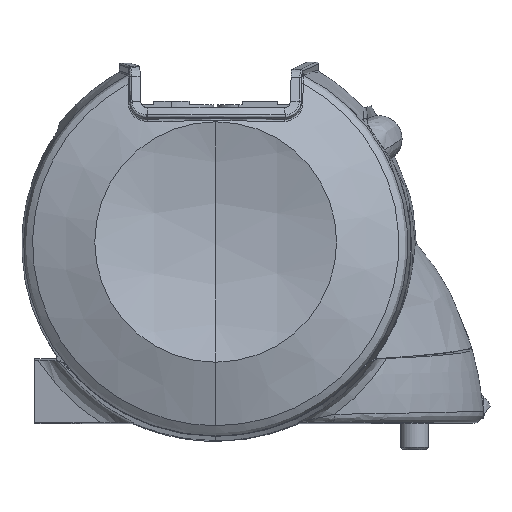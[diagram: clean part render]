
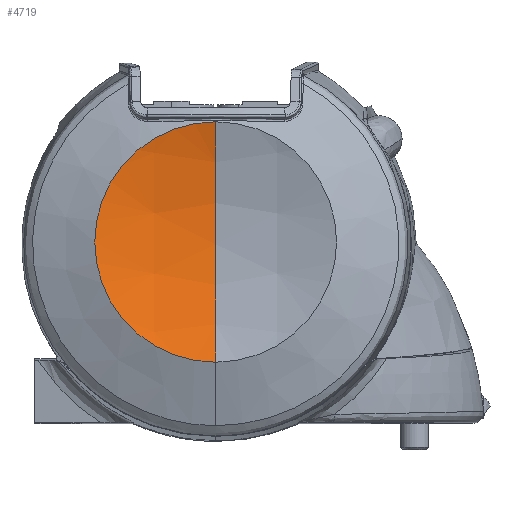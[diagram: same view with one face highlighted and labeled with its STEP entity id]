
A CAD part, top view. The second image highlights one B-rep face of the part: STEP entity #4719.
In plain terms, the highlighted spherical face has radius 49.821 mm.
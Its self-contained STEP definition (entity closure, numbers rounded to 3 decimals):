
#4719 = ADVANCED_FACE ( 'NONE', ( #23536 ), #24031, .F. ) ;
#5004 = EDGE_CURVE ( 'NONE', #29858, #14075, #23842, .T. ) ;
#5005 = EDGE_CURVE ( 'NONE', #29858, #14069, #23636, .T. ) ;
#5322 = CIRCLE ( 'NONE', #8032, 17.027 ) ;
#6786 = CARTESIAN_POINT ( 'NONE',  ( 0., 5.312, 97.543 ) ) ;
#6787 = DIRECTION ( 'NONE',  ( 1., 0., 0. ) ) ;
#6788 = DIRECTION ( 'NONE',  ( 0., 0., -1. ) ) ;
#6791 = CARTESIAN_POINT ( 'NONE',  ( 0., 5.312, 97.543 ) ) ;
#6792 = DIRECTION ( 'NONE',  ( -1., 0., 0. ) ) ;
#6793 = DIRECTION ( 'NONE',  ( 0., -1., 0. ) ) ;
#7865 = AXIS2_PLACEMENT_3D ( 'NONE', #6786, #6787, #6788 ) ;
#7866 = AXIS2_PLACEMENT_3D ( 'NONE', #6791, #6792, #6793 ) ;
#8032 = AXIS2_PLACEMENT_3D ( 'NONE', #10147, #10150, #10153 ) ;
#10147 = CARTESIAN_POINT ( 'NONE',  ( 0., 0.418, 50.978 ) ) ;
#10150 = DIRECTION ( 'NONE',  ( 0., 0.105, 0.995 ) ) ;
#10153 = DIRECTION ( 'NONE',  ( 0., -0.995, 0.105 ) ) ;
#14069 = VERTEX_POINT ( 'NONE', #22056 ) ;
#14075 = VERTEX_POINT ( 'NONE', #22062 ) ;
#16712 = ORIENTED_EDGE ( 'NONE', *, *, #5004, .T. ) ;
#17018 = ORIENTED_EDGE ( 'NONE', *, *, #5005, .F. ) ;
#17071 = ORIENTED_EDGE ( 'NONE', *, *, #21203, .T. ) ;
#20861 = DIRECTION ( 'NONE',  ( -1., 0., 0. ) ) ;
#20865 = CARTESIAN_POINT ( 'NONE',  ( 0., 5.312, 97.543 ) ) ;
#20898 = DIRECTION ( 'NONE',  ( 0., 0.995, -0.105 ) ) ;
#21203 = EDGE_CURVE ( 'NONE', #14075, #14069, #5322, .T. ) ;
#22056 = CARTESIAN_POINT ( 'NONE',  ( 0., -16.516, 52.758 ) ) ;
#22062 = CARTESIAN_POINT ( 'NONE',  ( 0., 17.352, 49.198 ) ) ;
#23192 = AXIS2_PLACEMENT_3D ( 'NONE', #20865, #20861, #20898 ) ;
#23536 = FACE_OUTER_BOUND ( 'NONE', #29576, .T. ) ;
#23636 = CIRCLE ( 'NONE', #7866, 49.821 ) ;
#23842 = CIRCLE ( 'NONE', #7865, 49.821 ) ;
#24031 = SPHERICAL_SURFACE ( 'NONE', #23192, 49.821 ) ;
#27603 = CARTESIAN_POINT ( 'NONE',  ( 0., 0.105, 47.995 ) ) ;
#29576 = EDGE_LOOP ( 'NONE', ( #17018, #16712, #17071 ) ) ;
#29858 = VERTEX_POINT ( 'NONE', #27603 ) ;
